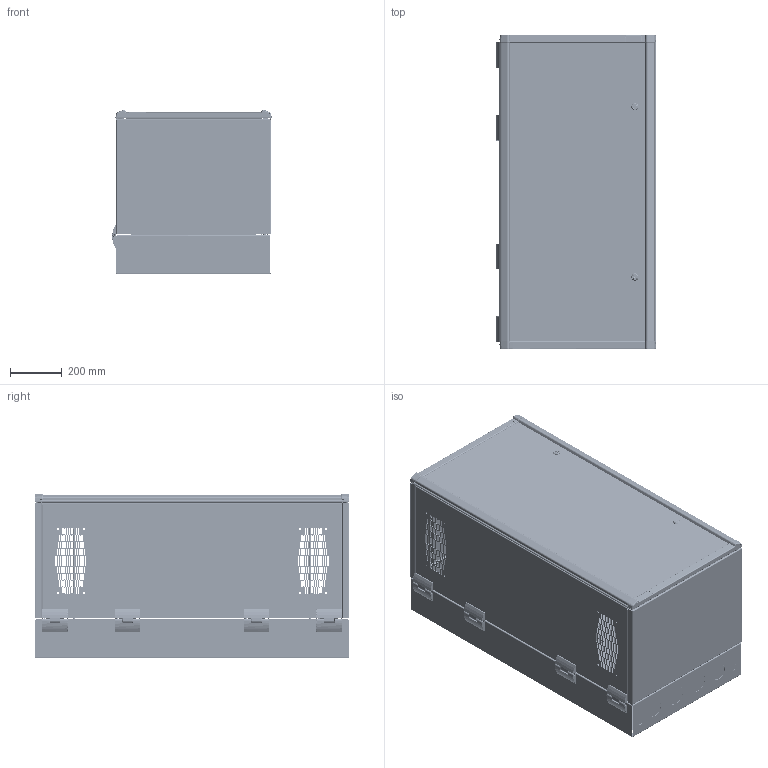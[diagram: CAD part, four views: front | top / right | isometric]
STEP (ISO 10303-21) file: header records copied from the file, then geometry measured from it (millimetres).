
FILE_DESCRIPTION (( 'STEP AP203' ), '1' );
FILE_NAME ('ewms482425.STEP', '2018-06-13T17:42:24', ( '' ), ( '' ), 'SwSTEP 2.0', 'SolidWorks 2014', '' );
FILE_SCHEMA (( 'CONFIG_CONTROL_DESIGN' ));
Length unit declared in the file: millimetre
Products named in the file (42): 89069243; 87934660; 89091800; 87798865; 87934797; 87928600; 99401225; 89066980; 89072125_87931339; 87933969; 87417023; 87935258; 89113746; 87922658; 87931593; 87933389_Access Plus sld dr; 87933472_87931287; 60127314; 87922656; 87932396_90 DEG FREE POSITION; 99414156; 87931291_87931291; 87931311_87931311; ewms482425; 89066977_AS REAMED; 87931598; 87937614_Access Plus sld dr; 87931285_87931285; 87934407_87934407; 87540581; 87932393_87932393; 87934676_87934676; 87931293_87931293; 87934405_87934405; 89066978; 87936836_M5x10-Z; 87933941_87933352; 87931299_87931299; 87934409_87934409; 89066979_WITH STAKE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
Assembly tree (108 placements, depth 4):
  ewms482425
    87934409_87934409
      87931311_87931311  x2
      87934407_87934407
      87934405_87934405
    87934676_87934676
      87935258
        87934660
        99401225
      87933472_87931287  x2
      87931291_87931291  x4
      87931285_87931285  x2
      87931293_87931293  x2
      87931299_87931299  x2
      89069243  x8
      87928600
      87417023  x2
      87937614_Access Plus sld dr  x2
        87933389_Access Plus sld dr
        99414156
    87934797
      87933941_87933352
      87576028_14GA MATERIAL THICKNESS  x4
    87933969  x2
    87931593  x2
    87932396_90 DEG FREE POSITION  x2
    87931598  x2
    87932393_87932393  x2
    87936836_M5x10-Z  x2
    89063531_14GA MATERIAL THICKNESS  x4
    87798865  x4
    89072125_87931339  x2
    87922658  x4
    87922656  x4
    89066978  x4
      89066977_AS REAMED
      87540581
    89066980  x4
      89066979_WITH STAKE
      89091800
      87540581
    89113746  x4
    60127314  x16
Bounding box: 619.33 x 1220 x 637.17 mm (x, y, z)
Volume: 9800740.6 mm3; surface area: 10075862.2 mm2
Topology: 192 solids, 192 shells, 15077 faces, 39228 edges, 24492 vertices
Faces by surface type: plane 6149, cylinder 5548, bspline 1474, torus 802, cone 762, sphere 342
Entity records: 280904 total; most frequent: CARTESIAN_POINT 79388, ORIENTED_EDGE 41562, DIRECTION 40141, EDGE_CURVE 20781, AXIS2_PLACEMENT_3D 14235, VERTEX_POINT 13194, LINE 11671, VECTOR 11671
